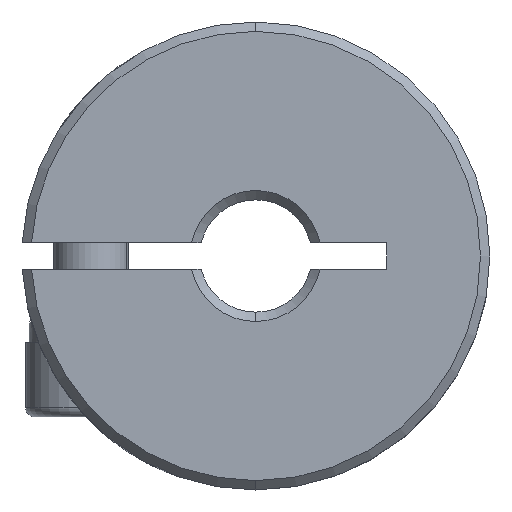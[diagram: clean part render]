
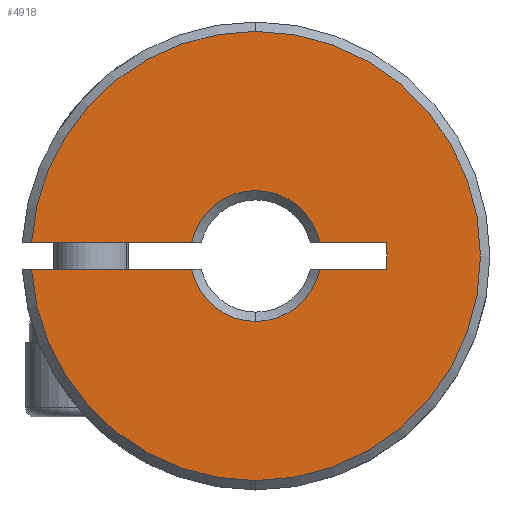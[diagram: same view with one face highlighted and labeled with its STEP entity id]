
A CAD part, front view. The second image highlights one B-rep face of the part: STEP entity #4918.
In plain terms, the highlighted planar face has unit normal (0, -1, 0).
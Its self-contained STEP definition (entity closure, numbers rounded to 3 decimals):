
#161 = DIRECTION ( 'NONE',  ( 0., 0., 1. ) ) ;
#200 = AXIS2_PLACEMENT_3D ( 'NONE', #5767, #2879, #3430 ) ;
#233 = PLANE ( 'NONE',  #4749 ) ;
#344 = DIRECTION ( 'NONE',  ( 0., 1., 0. ) ) ;
#500 = EDGE_CURVE ( 'NONE', #4775, #2350, #4022, .T. ) ;
#514 = CARTESIAN_POINT ( 'NONE',  ( 7., 0.25, -0.7 ) ) ;
#658 = VERTEX_POINT ( 'NONE', #3622 ) ;
#809 = DIRECTION ( 'NONE',  ( 0., 0., 1. ) ) ;
#859 = DIRECTION ( 'NONE',  ( 0., 0., 1. ) ) ;
#971 = CARTESIAN_POINT ( 'NONE',  ( -12.75, 0.25, 0.7 ) ) ;
#990 = EDGE_CURVE ( 'NONE', #6227, #1268, #2926, .T. ) ;
#995 = EDGE_CURVE ( 'NONE', #658, #6227, #5763, .T. ) ;
#1005 = ORIENTED_EDGE ( 'NONE', *, *, #990, .F. ) ;
#1007 = ORIENTED_EDGE ( 'NONE', *, *, #3121, .T. ) ;
#1104 = ORIENTED_EDGE ( 'NONE', *, *, #6068, .T. ) ;
#1164 = CIRCLE ( 'NONE', #200, 12. ) ;
#1192 = EDGE_CURVE ( 'NONE', #2350, #6314, #5447, .T. ) ;
#1253 = VECTOR ( 'NONE', #4995, 1000. ) ;
#1268 = VERTEX_POINT ( 'NONE', #6183 ) ;
#1277 = ORIENTED_EDGE ( 'NONE', *, *, #2749, .T. ) ;
#1332 = DIRECTION ( 'NONE',  ( 0., 0., 1. ) ) ;
#1353 = EDGE_CURVE ( 'NONE', #1268, #4789, #5601, .T. ) ;
#1358 = VERTEX_POINT ( 'NONE', #1919 ) ;
#1400 = EDGE_CURVE ( 'NONE', #5707, #6314, #2850, .T. ) ;
#1476 = CARTESIAN_POINT ( 'NONE',  ( -12.75, 0.25, -0.7 ) ) ;
#1546 = VECTOR ( 'NONE', #3020, 1000. ) ;
#1561 = CARTESIAN_POINT ( 'NONE',  ( 7., 0.25, 0.7 ) ) ;
#1727 = AXIS2_PLACEMENT_3D ( 'NONE', #5891, #4472, #2502 ) ;
#1831 = AXIS2_PLACEMENT_3D ( 'NONE', #3232, #5633, #809 ) ;
#1843 = CARTESIAN_POINT ( 'NONE',  ( 0., 0.25, 0. ) ) ;
#1877 = DIRECTION ( 'NONE',  ( -1., 0., 0. ) ) ;
#1919 = CARTESIAN_POINT ( 'NONE',  ( -3.429, 0.25, -0.7 ) ) ;
#2051 = VERTEX_POINT ( 'NONE', #2545 ) ;
#2059 = DIRECTION ( 'NONE',  ( 1., 0., 0. ) ) ;
#2227 = FACE_OUTER_BOUND ( 'NONE', #2884, .T. ) ;
#2317 = EDGE_CURVE ( 'NONE', #4347, #4775, #1164, .T. ) ;
#2321 = CARTESIAN_POINT ( 'NONE',  ( -500., 0.25, -13.609 ) ) ;
#2350 = VERTEX_POINT ( 'NONE', #6295 ) ;
#2502 = DIRECTION ( 'NONE',  ( 0., 0., 1. ) ) ;
#2545 = CARTESIAN_POINT ( 'NONE',  ( 0., 0.25, -3.5 ) ) ;
#2592 = ORIENTED_EDGE ( 'NONE', *, *, #2317, .T. ) ;
#2672 = AXIS2_PLACEMENT_3D ( 'NONE', #5817, #3887, #161 ) ;
#2707 = ORIENTED_EDGE ( 'NONE', *, *, #500, .T. ) ;
#2730 = AXIS2_PLACEMENT_3D ( 'NONE', #1843, #4811, #859 ) ;
#2749 = EDGE_CURVE ( 'NONE', #5707, #4789, #3552, .T. ) ;
#2756 = CIRCLE ( 'NONE', #5636, 3.5 ) ;
#2850 = LINE ( 'NONE', #5780, #6135 ) ;
#2858 = DIRECTION ( 'NONE',  ( 0., 0., 1. ) ) ;
#2879 = DIRECTION ( 'NONE',  ( 0., -1., 0. ) ) ;
#2884 = EDGE_LOOP ( 'NONE', ( #5266, #1104, #1007, #5110, #2592, #2707, #6163, #4504, #1277, #3466, #1005 ) ) ;
#2926 = LINE ( 'NONE', #1561, #1546 ) ;
#3009 = CARTESIAN_POINT ( 'NONE',  ( -11.98, 0.25, 0.7 ) ) ;
#3020 = DIRECTION ( 'NONE',  ( 0., 0., 1. ) ) ;
#3121 = EDGE_CURVE ( 'NONE', #2051, #1358, #2756, .T. ) ;
#3232 = CARTESIAN_POINT ( 'NONE',  ( 0., 0.25, 0. ) ) ;
#3356 = DIRECTION ( 'NONE',  ( -1., 0., 0. ) ) ;
#3369 = LINE ( 'NONE', #5926, #4284 ) ;
#3430 = DIRECTION ( 'NONE',  ( 0., 0., 1. ) ) ;
#3466 = ORIENTED_EDGE ( 'NONE', *, *, #1353, .F. ) ;
#3552 = CIRCLE ( 'NONE', #1831, 3.5 ) ;
#3622 = CARTESIAN_POINT ( 'NONE',  ( 3.429, 0.25, -0.7 ) ) ;
#3682 = CARTESIAN_POINT ( 'NONE',  ( 3.429, 0.25, 0.7 ) ) ;
#3887 = DIRECTION ( 'NONE',  ( 0., -1., 0. ) ) ;
#4022 = CIRCLE ( 'NONE', #1727, 12. ) ;
#4284 = VECTOR ( 'NONE', #2059, 1000. ) ;
#4347 = VERTEX_POINT ( 'NONE', #5473 ) ;
#4472 = DIRECTION ( 'NONE',  ( 0., -1., 0. ) ) ;
#4504 = ORIENTED_EDGE ( 'NONE', *, *, #1400, .F. ) ;
#4749 = AXIS2_PLACEMENT_3D ( 'NONE', #2321, #344, #1332 ) ;
#4773 = VECTOR ( 'NONE', #1877, 1000. ) ;
#4775 = VERTEX_POINT ( 'NONE', #6096 ) ;
#4789 = VERTEX_POINT ( 'NONE', #3682 ) ;
#4811 = DIRECTION ( 'NONE',  ( 0., 1., 0. ) ) ;
#4918 = ADVANCED_FACE ( 'NONE', ( #2227 ), #233, .F. ) ;
#4959 = CARTESIAN_POINT ( 'NONE',  ( -3.429, 0.25, 0.7 ) ) ;
#4971 = CIRCLE ( 'NONE', #2730, 3.5 ) ;
#4995 = DIRECTION ( 'NONE',  ( 1., 0., 0. ) ) ;
#5110 = ORIENTED_EDGE ( 'NONE', *, *, #6307, .F. ) ;
#5266 = ORIENTED_EDGE ( 'NONE', *, *, #995, .F. ) ;
#5322 = DIRECTION ( 'NONE',  ( 0., 1., 0. ) ) ;
#5447 = CIRCLE ( 'NONE', #2672, 12. ) ;
#5473 = CARTESIAN_POINT ( 'NONE',  ( -11.98, 0.25, -0.7 ) ) ;
#5601 = LINE ( 'NONE', #971, #4773 ) ;
#5633 = DIRECTION ( 'NONE',  ( 0., 1., 0. ) ) ;
#5636 = AXIS2_PLACEMENT_3D ( 'NONE', #6104, #5322, #2858 ) ;
#5707 = VERTEX_POINT ( 'NONE', #4959 ) ;
#5763 = LINE ( 'NONE', #1476, #1253 ) ;
#5767 = CARTESIAN_POINT ( 'NONE',  ( 0., 0.25, 0. ) ) ;
#5780 = CARTESIAN_POINT ( 'NONE',  ( -12.75, 0.25, 0.7 ) ) ;
#5817 = CARTESIAN_POINT ( 'NONE',  ( 0., 0.25, 0. ) ) ;
#5891 = CARTESIAN_POINT ( 'NONE',  ( 0., 0.25, 0. ) ) ;
#5926 = CARTESIAN_POINT ( 'NONE',  ( -12.75, 0.25, -0.7 ) ) ;
#6068 = EDGE_CURVE ( 'NONE', #658, #2051, #4971, .T. ) ;
#6096 = CARTESIAN_POINT ( 'NONE',  ( 0., 0.25, -12. ) ) ;
#6104 = CARTESIAN_POINT ( 'NONE',  ( 0., 0.25, 0. ) ) ;
#6135 = VECTOR ( 'NONE', #3356, 1000. ) ;
#6163 = ORIENTED_EDGE ( 'NONE', *, *, #1192, .T. ) ;
#6183 = CARTESIAN_POINT ( 'NONE',  ( 7., 0.25, 0.7 ) ) ;
#6227 = VERTEX_POINT ( 'NONE', #514 ) ;
#6295 = CARTESIAN_POINT ( 'NONE',  ( 0., 0.25, 12. ) ) ;
#6307 = EDGE_CURVE ( 'NONE', #4347, #1358, #3369, .T. ) ;
#6314 = VERTEX_POINT ( 'NONE', #3009 ) ;
